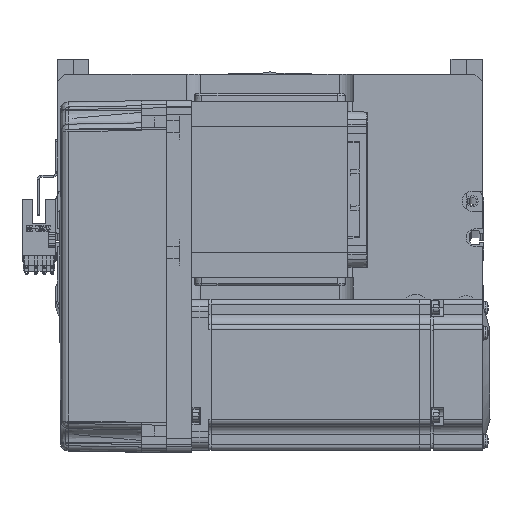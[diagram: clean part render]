
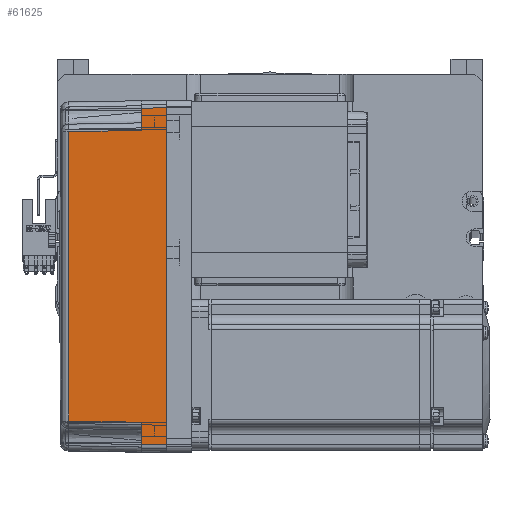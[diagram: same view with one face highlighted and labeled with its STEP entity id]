
A CAD part, top view. The second image highlights one B-rep face of the part: STEP entity #61625.
In plain terms, the highlighted planar face has unit normal (-0.018, 0, 1) as drawn and (0, -1, 0.017) by its records, which use the part's own axes.
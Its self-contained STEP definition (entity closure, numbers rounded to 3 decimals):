
#2535 = CARTESIAN_POINT ( 'NONE',  ( 0., -36., 0. ) ) ;
#4158 = AXIS2_PLACEMENT_3D ( 'NONE', #34496, #28783, #33630 ) ;
#4187 = CARTESIAN_POINT ( 'NONE',  ( 58., -35.825, 10. ) ) ;
#4413 = VECTOR ( 'NONE', #9794, 1000. ) ;
#5871 = VERTEX_POINT ( 'NONE', #4187 ) ;
#7204 = DIRECTION ( 'NONE',  ( 0.017, 0.017, 1. ) ) ;
#9794 = DIRECTION ( 'NONE',  ( -1., 0., 0. ) ) ;
#10564 = VECTOR ( 'NONE', #7204, 1000. ) ;
#13001 = EDGE_CURVE ( 'NONE', #19365, #25737, #58078, .T. ) ;
#14017 = LINE ( 'NONE', #46018, #27417 ) ;
#16283 = CARTESIAN_POINT ( 'NONE',  ( 57.495, -35.32, 38.985 ) ) ;
#16582 = EDGE_CURVE ( 'NONE', #22891, #48778, #31954, .T. ) ;
#17413 = FACE_OUTER_BOUND ( 'NONE', #45574, .T. ) ;
#17459 = VERTEX_POINT ( 'NONE', #53298 ) ;
#19049 = CARTESIAN_POINT ( 'NONE',  ( -57.495, -35.32, 38.985 ) ) ;
#19124 = CARTESIAN_POINT ( 'NONE',  ( 70., -35.825, 10. ) ) ;
#19365 = VERTEX_POINT ( 'NONE', #43499 ) ;
#19717 = CARTESIAN_POINT ( 'NONE',  ( 57.495, -35.32, 38.985 ) ) ;
#20120 = LINE ( 'NONE', #2535, #24021 ) ;
#20473 = CARTESIAN_POINT ( 'NONE',  ( 66.826, -35.825, 10. ) ) ;
#20771 = PLANE ( 'NONE',  #4158 ) ;
#20779 = ORIENTED_EDGE ( 'NONE', *, *, #58091, .T. ) ;
#20802 = LINE ( 'NONE', #51980, #10564 ) ;
#21693 = CARTESIAN_POINT ( 'NONE',  ( 67., -36., 0. ) ) ;
#22348 = ORIENTED_EDGE ( 'NONE', *, *, #46679, .T. ) ;
#22891 = VERTEX_POINT ( 'NONE', #16283 ) ;
#23820 = CARTESIAN_POINT ( 'NONE',  ( 67., -36., 0. ) ) ;
#24021 = VECTOR ( 'NONE', #37572, 1000. ) ;
#25737 = VERTEX_POINT ( 'NONE', #26740 ) ;
#26646 = LINE ( 'NONE', #23820, #32161 ) ;
#26740 = CARTESIAN_POINT ( 'NONE',  ( -66.826, -35.825, 10. ) ) ;
#27417 = VECTOR ( 'NONE', #60805, 1000. ) ;
#28451 = DIRECTION ( 'NONE',  ( -0.017, 0.017, 1. ) ) ;
#28584 = ORIENTED_EDGE ( 'NONE', *, *, #16582, .T. ) ;
#28768 = LINE ( 'NONE', #30048, #55627 ) ;
#28783 = DIRECTION ( 'NONE',  ( 0., -1., 0.017 ) ) ;
#29183 = CARTESIAN_POINT ( 'NONE',  ( 19.165, -35.316, 39.181 ) ) ;
#29556 = ORIENTED_EDGE ( 'NONE', *, *, #30769, .T. ) ;
#30048 = CARTESIAN_POINT ( 'NONE',  ( -57.495, -35.32, 38.985 ) ) ;
#30769 = EDGE_CURVE ( 'NONE', #64067, #44234, #26646, .T. ) ;
#31954 = B_SPLINE_CURVE_WITH_KNOTS ( 'NONE', 3,
 ( #19717, #29183, #44848, #19049 ),
 .UNSPECIFIED., .F., .F.,
 ( 4, 4 ),
 ( 0., 1. ),
 .UNSPECIFIED. ) ;
#32161 = VECTOR ( 'NONE', #28451, 1000. ) ;
#32527 = EDGE_CURVE ( 'NONE', #64067, #17459, #20120, .T. ) ;
#33630 = DIRECTION ( 'NONE',  ( 0., -0.017, -1. ) ) ;
#34496 = CARTESIAN_POINT ( 'NONE',  ( 70., -36., 0. ) ) ;
#37572 = DIRECTION ( 'NONE',  ( -1., 0., 0. ) ) ;
#38207 = EDGE_CURVE ( 'NONE', #17459, #25737, #20802, .T. ) ;
#40194 = CARTESIAN_POINT ( 'NONE',  ( 70., -35.825, 10. ) ) ;
#43499 = CARTESIAN_POINT ( 'NONE',  ( -58., -35.825, 10. ) ) ;
#44234 = VERTEX_POINT ( 'NONE', #20473 ) ;
#44848 = CARTESIAN_POINT ( 'NONE',  ( -19.165, -35.316, 39.181 ) ) ;
#45574 = EDGE_LOOP ( 'NONE', ( #29556, #20779, #49233, #28584, #22348, #47421, #63950, #55957 ) ) ;
#46018 = CARTESIAN_POINT ( 'NONE',  ( 58., -35.825, 10. ) ) ;
#46679 = EDGE_CURVE ( 'NONE', #48778, #19365, #28768, .T. ) ;
#47421 = ORIENTED_EDGE ( 'NONE', *, *, #13001, .T. ) ;
#48778 = VERTEX_POINT ( 'NONE', #49463 ) ;
#49233 = ORIENTED_EDGE ( 'NONE', *, *, #50503, .T. ) ;
#49463 = CARTESIAN_POINT ( 'NONE',  ( -57.495, -35.32, 38.985 ) ) ;
#50503 = EDGE_CURVE ( 'NONE', #5871, #22891, #14017, .T. ) ;
#50564 = DIRECTION ( 'NONE',  ( -0.017, -0.017, -1. ) ) ;
#51980 = CARTESIAN_POINT ( 'NONE',  ( -66.959, -35.958, 2.39 ) ) ;
#53298 = CARTESIAN_POINT ( 'NONE',  ( -67., -36., 0. ) ) ;
#54913 = VECTOR ( 'NONE', #59488, 1000. ) ;
#55627 = VECTOR ( 'NONE', #50564, 1000. ) ;
#55957 = ORIENTED_EDGE ( 'NONE', *, *, #32527, .F. ) ;
#58078 = LINE ( 'NONE', #19124, #54913 ) ;
#58091 = EDGE_CURVE ( 'NONE', #44234, #5871, #61220, .T. ) ;
#59488 = DIRECTION ( 'NONE',  ( -1., 0., 0. ) ) ;
#60805 = DIRECTION ( 'NONE',  ( -0.017, 0.017, 1. ) ) ;
#61220 = LINE ( 'NONE', #40194, #4413 ) ;
#61625 = ADVANCED_FACE ( 'NONE', ( #17413 ), #20771, .T. ) ;
#63950 = ORIENTED_EDGE ( 'NONE', *, *, #38207, .F. ) ;
#64067 = VERTEX_POINT ( 'NONE', #21693 ) ;
